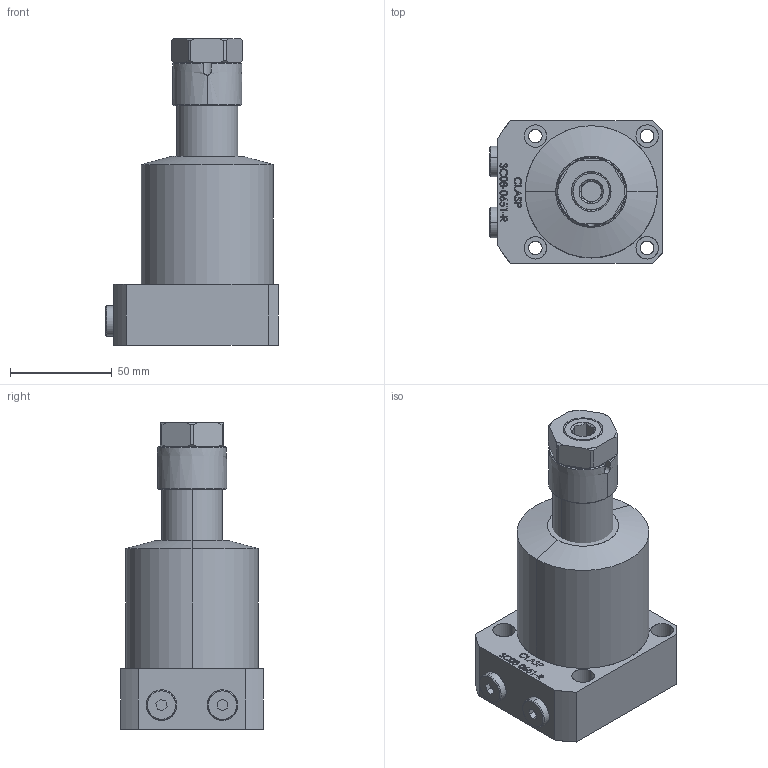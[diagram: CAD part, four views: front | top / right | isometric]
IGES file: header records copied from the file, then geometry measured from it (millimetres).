
Start section: SolidWorks IGES file using analytic representation for surfaces
Global section: file name: D:\karuppas\Clasp\3D model\SWING CYLINDER\bottom mounting swing cylinder\SC08-0651-R\SC08-0651-R.IGS; native system: SolidWorks 2017; preprocessor: SolidWorks 2017; author: pc; date: 220708.224925; units: millimetre
Bounding box: 85 x 70 x 151 mm (x, y, z)
Surface area: 54731 mm2 (no closed solid volume)
Topology: 0 solids, 0 shells, 376 faces, 5957 edges, 5956 vertices
Faces by surface type: bspline 271, revolution 105
